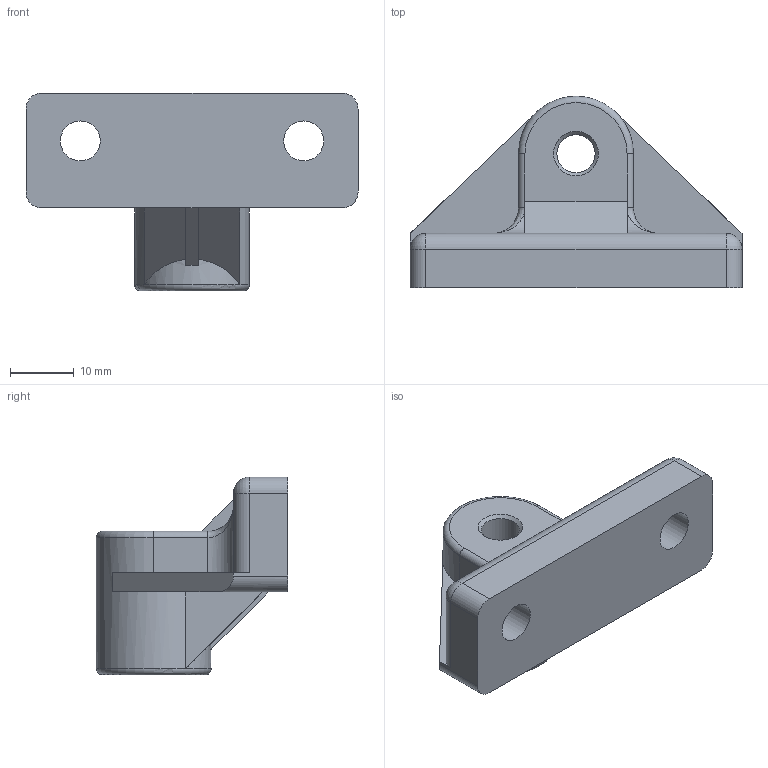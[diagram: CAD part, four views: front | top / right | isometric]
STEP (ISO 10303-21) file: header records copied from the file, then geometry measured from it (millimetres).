
FILE_DESCRIPTION (( 'STEP AP214' ), '1' );
FILE_NAME ('L19142.step', '2024-12-03T16:22:41', ( '' ), ( '' ), 'SwSTEP 2.0', 'SolidWorks 2023', '' );
FILE_SCHEMA (( 'AUTOMOTIVE_DESIGN' ));
Length unit declared in the file: millimetre
Products named in the file (1): L19142
Bounding box: 52 x 30 x 31 mm (x, y, z)
Volume: 14627.3 mm3; surface area: 5829 mm2
Topology: 1 solids, 1 shells, 56 faces, 149 edges, 91 vertices
Faces by surface type: plane 28, cylinder 20, sphere 2, cone 2, bspline 2, torus 2
Full cylindrical faces by diameter (mm): 6 x1, 6.25 x2, 10.25 x2
Entity records: 1759 total; most frequent: CARTESIAN_POINT 432, DIRECTION 269, ORIENTED_EDGE 266, EDGE_CURVE 133, AXIS2_PLACEMENT_3D 98, VERTEX_POINT 87, LINE 73, VECTOR 73
